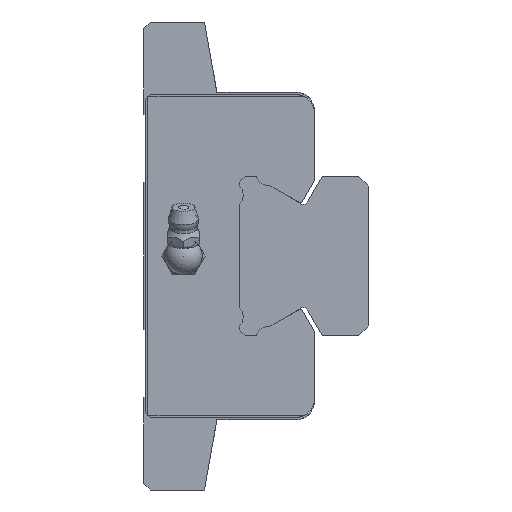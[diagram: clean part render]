
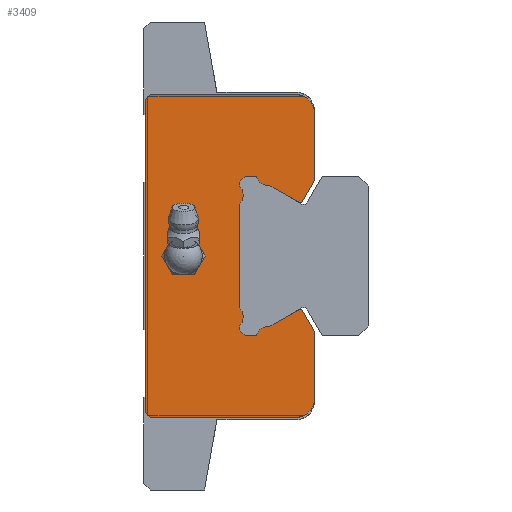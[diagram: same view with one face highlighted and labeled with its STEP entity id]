
A CAD part, left-side view. The second image highlights one B-rep face of the part: STEP entity #3409.
In plain terms, the highlighted planar face has unit normal (-1, 0, 0).
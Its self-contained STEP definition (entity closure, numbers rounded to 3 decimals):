
#111=LINE('',#5273,#403);
#116=LINE('',#5284,#408);
#128=LINE('',#5310,#420);
#135=LINE('',#5339,#427);
#143=LINE('',#5353,#435);
#151=LINE('',#5367,#443);
#153=LINE('',#5372,#445);
#234=LINE('',#5589,#526);
#235=LINE('',#5591,#527);
#236=LINE('',#5595,#528);
#237=LINE('',#5599,#529);
#238=LINE('',#5601,#530);
#239=LINE('',#5603,#531);
#240=LINE('',#5607,#532);
#241=LINE('',#5611,#533);
#242=LINE('',#5613,#534);
#243=LINE('',#5615,#535);
#244=LINE('',#5619,#536);
#403=VECTOR('',#4141,1000.);
#408=VECTOR('',#4148,1000.);
#420=VECTOR('',#4166,1000.);
#427=VECTOR('',#4195,1000.);
#435=VECTOR('',#4213,1000.);
#443=VECTOR('',#4225,1000.);
#445=VECTOR('',#4229,1000.);
#526=VECTOR('',#4412,1000.);
#527=VECTOR('',#4413,1000.);
#528=VECTOR('',#4416,1000.);
#529=VECTOR('',#4419,1000.);
#530=VECTOR('',#4420,1000.);
#531=VECTOR('',#4421,1000.);
#532=VECTOR('',#4424,1000.);
#533=VECTOR('',#4427,1000.);
#534=VECTOR('',#4428,1000.);
#535=VECTOR('',#4429,1000.);
#536=VECTOR('',#4432,1000.);
#693=PLANE('',#3708);
#854=CIRCLE('',#3643,4.);
#858=CIRCLE('',#3649,4.);
#870=CIRCLE('',#3709,3.);
#871=CIRCLE('',#3710,0.5);
#872=CIRCLE('',#3711,2.889);
#873=CIRCLE('',#3712,2.89);
#874=CIRCLE('',#3713,2.89);
#875=CIRCLE('',#3714,2.889);
#876=CIRCLE('',#3715,0.5);
#1452=ORIENTED_EDGE('',*,*,#2158,.T.);
#1453=ORIENTED_EDGE('',*,*,#2159,.F.);
#1454=ORIENTED_EDGE('',*,*,#2059,.F.);
#1455=ORIENTED_EDGE('',*,*,#2031,.F.);
#1456=ORIENTED_EDGE('',*,*,#2027,.F.);
#1457=ORIENTED_EDGE('',*,*,#2009,.F.);
#1458=ORIENTED_EDGE('',*,*,#2051,.F.);
#1459=ORIENTED_EDGE('',*,*,#2014,.F.);
#1460=ORIENTED_EDGE('',*,*,#2042,.F.);
#1461=ORIENTED_EDGE('',*,*,#2039,.F.);
#1462=ORIENTED_EDGE('',*,*,#2061,.F.);
#1463=ORIENTED_EDGE('',*,*,#2160,.F.);
#1464=ORIENTED_EDGE('',*,*,#2161,.T.);
#1465=ORIENTED_EDGE('',*,*,#2162,.F.);
#1466=ORIENTED_EDGE('',*,*,#2163,.T.);
#1467=ORIENTED_EDGE('',*,*,#2164,.F.);
#1468=ORIENTED_EDGE('',*,*,#2165,.F.);
#1469=ORIENTED_EDGE('',*,*,#2166,.F.);
#1470=ORIENTED_EDGE('',*,*,#2167,.T.);
#1471=ORIENTED_EDGE('',*,*,#2168,.F.);
#1472=ORIENTED_EDGE('',*,*,#2169,.T.);
#1473=ORIENTED_EDGE('',*,*,#2170,.F.);
#1474=ORIENTED_EDGE('',*,*,#2171,.F.);
#1475=ORIENTED_EDGE('',*,*,#2172,.F.);
#1476=ORIENTED_EDGE('',*,*,#2173,.T.);
#1477=ORIENTED_EDGE('',*,*,#2174,.F.);
#1478=ORIENTED_EDGE('',*,*,#2175,.T.);
#2009=EDGE_CURVE('',#2438,#2439,#111,.T.);
#2014=EDGE_CURVE('',#2443,#2444,#116,.T.);
#2027=EDGE_CURVE('',#2439,#2455,#128,.T.);
#2031=EDGE_CURVE('',#2455,#2457,#854,.T.);
#2039=EDGE_CURVE('',#2464,#2465,#858,.T.);
#2042=EDGE_CURVE('',#2465,#2443,#135,.T.);
#2051=EDGE_CURVE('',#2444,#2438,#143,.T.);
#2059=EDGE_CURVE('',#2457,#2468,#151,.T.);
#2061=EDGE_CURVE('',#2471,#2464,#153,.T.);
#2158=EDGE_CURVE('',#2535,#2535,#870,.T.);
#2159=EDGE_CURVE('',#2468,#2536,#234,.T.);
#2160=EDGE_CURVE('',#2537,#2471,#235,.T.);
#2161=EDGE_CURVE('',#2537,#2538,#871,.F.);
#2162=EDGE_CURVE('',#2539,#2538,#236,.T.);
#2163=EDGE_CURVE('',#2539,#2540,#872,.F.);
#2164=EDGE_CURVE('',#2541,#2540,#237,.T.);
#2165=EDGE_CURVE('',#2542,#2541,#238,.T.);
#2166=EDGE_CURVE('',#2543,#2542,#239,.T.);
#2167=EDGE_CURVE('',#2543,#2544,#873,.F.);
#2168=EDGE_CURVE('',#2545,#2544,#240,.T.);
#2169=EDGE_CURVE('',#2545,#2546,#874,.F.);
#2170=EDGE_CURVE('',#2547,#2546,#241,.T.);
#2171=EDGE_CURVE('',#2548,#2547,#242,.T.);
#2172=EDGE_CURVE('',#2549,#2548,#243,.T.);
#2173=EDGE_CURVE('',#2549,#2550,#875,.F.);
#2174=EDGE_CURVE('',#2551,#2550,#244,.T.);
#2175=EDGE_CURVE('',#2551,#2536,#876,.F.);
#2438=VERTEX_POINT('',#5272);
#2439=VERTEX_POINT('',#5274);
#2443=VERTEX_POINT('',#5283);
#2444=VERTEX_POINT('',#5285);
#2455=VERTEX_POINT('',#5311);
#2457=VERTEX_POINT('',#5318);
#2464=VERTEX_POINT('',#5333);
#2465=VERTEX_POINT('',#5335);
#2468=VERTEX_POINT('',#5360);
#2471=VERTEX_POINT('',#5370);
#2535=VERTEX_POINT('',#5588);
#2536=VERTEX_POINT('',#5590);
#2537=VERTEX_POINT('',#5592);
#2538=VERTEX_POINT('',#5594);
#2539=VERTEX_POINT('',#5596);
#2540=VERTEX_POINT('',#5598);
#2541=VERTEX_POINT('',#5600);
#2542=VERTEX_POINT('',#5602);
#2543=VERTEX_POINT('',#5604);
#2544=VERTEX_POINT('',#5606);
#2545=VERTEX_POINT('',#5608);
#2546=VERTEX_POINT('',#5610);
#2547=VERTEX_POINT('',#5612);
#2548=VERTEX_POINT('',#5614);
#2549=VERTEX_POINT('',#5616);
#2550=VERTEX_POINT('',#5618);
#2551=VERTEX_POINT('',#5620);
#2817=EDGE_LOOP('',(#1452));
#2818=EDGE_LOOP('',(#1453,#1454,#1455,#1456,#1457,#1458,#1459,#1460,#1461,
#1462,#1463,#1464,#1465,#1466,#1467,#1468,#1469,#1470,#1471,#1472,#1473,
#1474,#1475,#1476,#1477,#1478));
#3116=FACE_BOUND('',#2817,.T.);
#3117=FACE_BOUND('',#2818,.T.);
#3409=ADVANCED_FACE('',(#3116,#3117),#693,.F.);
#3643=AXIS2_PLACEMENT_3D('',#5317,#4174,#4175);
#3649=AXIS2_PLACEMENT_3D('',#5334,#4189,#4190);
#3708=AXIS2_PLACEMENT_3D('',#5586,#4408,#4409);
#3709=AXIS2_PLACEMENT_3D('',#5587,#4410,#4411);
#3710=AXIS2_PLACEMENT_3D('',#5593,#4414,#4415);
#3711=AXIS2_PLACEMENT_3D('',#5597,#4417,#4418);
#3712=AXIS2_PLACEMENT_3D('',#5605,#4422,#4423);
#3713=AXIS2_PLACEMENT_3D('',#5609,#4425,#4426);
#3714=AXIS2_PLACEMENT_3D('',#5617,#4430,#4431);
#3715=AXIS2_PLACEMENT_3D('',#5621,#4433,#4434);
#4141=DIRECTION('',(0.,-0.707,0.707));
#4148=DIRECTION('',(0.,0.707,0.707));
#4166=DIRECTION('',(0.,-1.,0.));
#4174=DIRECTION('',(1.,0.,0.));
#4175=DIRECTION('',(0.,0.,-1.));
#4189=DIRECTION('',(1.,0.,0.));
#4190=DIRECTION('',(0.,0.,-1.));
#4195=DIRECTION('',(0.,1.,0.));
#4213=DIRECTION('',(0.,0.,1.));
#4225=DIRECTION('',(0.,0.,-1.));
#4229=DIRECTION('',(0.,0.,-1.));
#4408=DIRECTION('',(1.,0.,0.));
#4409=DIRECTION('',(0.,0.,-1.));
#4410=DIRECTION('',(1.,0.,0.));
#4411=DIRECTION('',(0.,0.,-1.));
#4412=DIRECTION('',(0.,0.5,-0.866));
#4413=DIRECTION('',(0.,-0.5,-0.866));
#4414=DIRECTION('',(1.,0.,0.));
#4415=DIRECTION('',(0.,0.,-1.));
#4416=DIRECTION('',(0.,-0.867,0.499));
#4417=DIRECTION('',(1.,0.,0.));
#4418=DIRECTION('',(0.,0.,-1.));
#4419=DIRECTION('',(0.,-1.,0.));
#4420=DIRECTION('',(0.,-0.707,-0.707));
#4421=DIRECTION('',(0.,0.,-1.));
#4422=DIRECTION('',(1.,0.,0.));
#4423=DIRECTION('',(0.,0.,-1.));
#4424=DIRECTION('',(0.,0.,-1.));
#4425=DIRECTION('',(1.,0.,0.));
#4426=DIRECTION('',(0.,0.,-1.));
#4427=DIRECTION('',(0.,0.,-1.));
#4428=DIRECTION('',(0.,0.707,-0.707));
#4429=DIRECTION('',(0.,1.,0.));
#4430=DIRECTION('',(1.,0.,0.));
#4431=DIRECTION('',(0.,0.,-1.));
#4432=DIRECTION('',(0.,0.867,0.499));
#4433=DIRECTION('',(1.,0.,0.));
#4434=DIRECTION('',(0.,0.,-1.));
#5272=CARTESIAN_POINT('',(-38.75,36.09,33.5));
#5273=CARTESIAN_POINT('',(-38.75,36.09,33.5));
#5274=CARTESIAN_POINT('',(-38.75,35.09,34.5));
#5283=CARTESIAN_POINT('',(-38.75,35.09,-34.5));
#5284=CARTESIAN_POINT('',(-38.75,35.09,-34.5));
#5285=CARTESIAN_POINT('',(-38.75,36.09,-33.5));
#5310=CARTESIAN_POINT('',(-38.75,35.09,34.5));
#5311=CARTESIAN_POINT('',(-38.75,4.,34.5));
#5317=CARTESIAN_POINT('',(-38.75,4.,30.5));
#5318=CARTESIAN_POINT('',(-38.75,0.,30.5));
#5333=CARTESIAN_POINT('',(-38.75,0.,-30.5));
#5334=CARTESIAN_POINT('',(-38.75,4.,-30.5));
#5335=CARTESIAN_POINT('',(-38.75,4.,-34.5));
#5339=CARTESIAN_POINT('',(-38.75,4.,-34.5));
#5353=CARTESIAN_POINT('',(-38.75,36.09,-33.5));
#5360=CARTESIAN_POINT('',(-38.75,0.,16.142));
#5367=CARTESIAN_POINT('',(-38.75,0.,30.5));
#5370=CARTESIAN_POINT('',(-38.75,0.,-16.142));
#5372=CARTESIAN_POINT('',(-38.75,0.,30.5));
#5586=CARTESIAN_POINT('',(-38.75,4.,30.5));
#5587=CARTESIAN_POINT('',(-38.75,28.,0.));
#5588=CARTESIAN_POINT('',(-38.75,28.,-3.));
#5589=CARTESIAN_POINT('',(-38.75,-5.217,25.18));
#5590=CARTESIAN_POINT('',(-38.75,2.616,11.609));
#5591=CARTESIAN_POINT('',(-38.75,21.194,20.575));
#5592=CARTESIAN_POINT('',(-38.75,2.616,-11.609));
#5593=CARTESIAN_POINT('',(-38.75,3.049,-11.859));
#5594=CARTESIAN_POINT('',(-38.75,3.299,-11.426));
#5595=CARTESIAN_POINT('',(-38.75,-14.299,-1.3));
#5596=CARTESIAN_POINT('',(-38.75,9.52,-15.006));
#5597=CARTESIAN_POINT('',(-38.75,9.69,-17.89));
#5598=CARTESIAN_POINT('',(-38.75,12.438,-17.));
#5599=CARTESIAN_POINT('',(-38.75,4.,-17.));
#5600=CARTESIAN_POINT('',(-38.75,14.799,-17.));
#5601=CARTESIAN_POINT('',(-38.75,33.15,1.351));
#5602=CARTESIAN_POINT('',(-38.75,16.,-15.799));
#5603=CARTESIAN_POINT('',(-38.75,16.,30.5));
#5604=CARTESIAN_POINT('',(-38.75,16.,-14.952));
#5605=CARTESIAN_POINT('',(-38.75,18.14,-13.01));
#5606=CARTESIAN_POINT('',(-38.75,16.,-11.068));
#5607=CARTESIAN_POINT('',(-38.75,16.,30.5));
#5608=CARTESIAN_POINT('',(-38.75,16.,11.068));
#5609=CARTESIAN_POINT('',(-38.75,18.14,13.01));
#5610=CARTESIAN_POINT('',(-38.75,16.,14.952));
#5611=CARTESIAN_POINT('',(-38.75,16.,30.5));
#5612=CARTESIAN_POINT('',(-38.75,16.,15.799));
#5613=CARTESIAN_POINT('',(-38.75,2.65,29.15));
#5614=CARTESIAN_POINT('',(-38.75,14.799,17.));
#5615=CARTESIAN_POINT('',(-38.75,4.,17.));
#5616=CARTESIAN_POINT('',(-38.75,12.438,17.));
#5617=CARTESIAN_POINT('',(-38.75,9.69,17.89));
#5618=CARTESIAN_POINT('',(-38.75,9.52,15.006));
#5619=CARTESIAN_POINT('',(-38.75,12.071,16.474));
#5620=CARTESIAN_POINT('',(-38.75,3.299,11.426));
#5621=CARTESIAN_POINT('',(-38.75,3.049,11.859));
